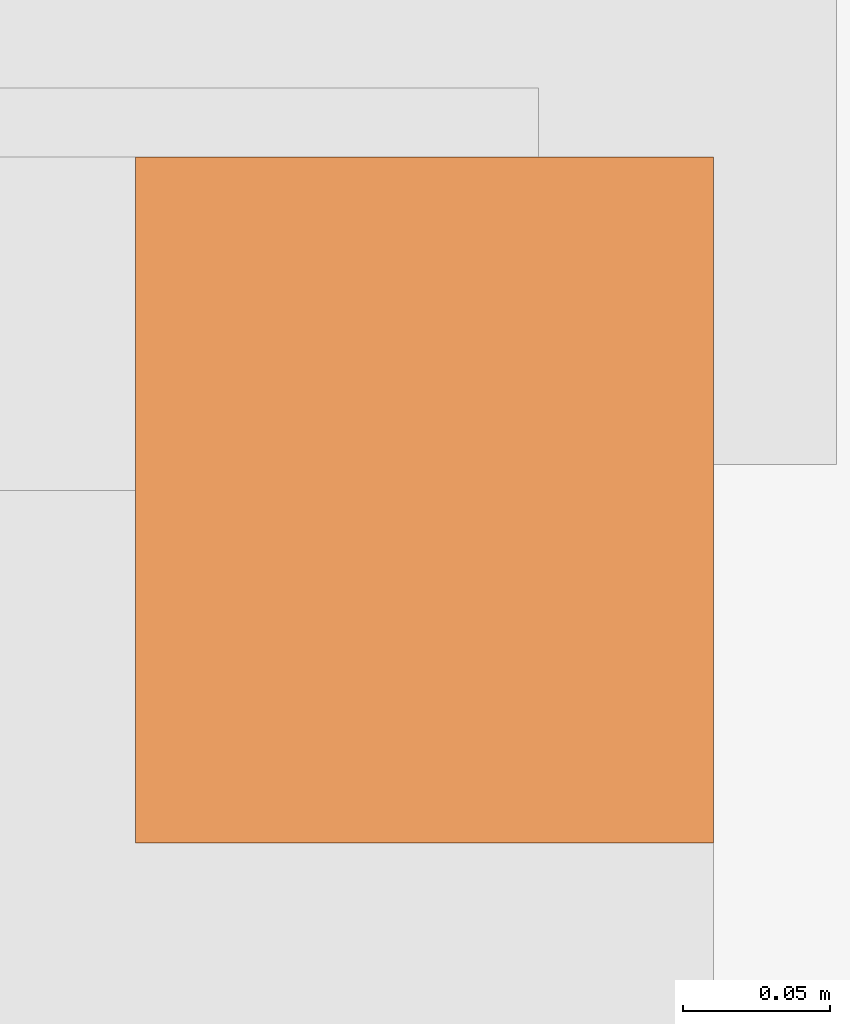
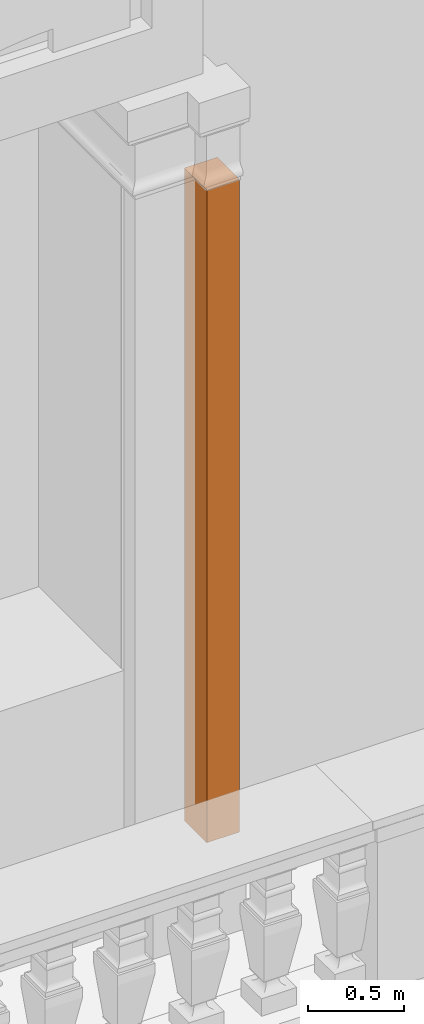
# One storey, part 6 of 14: 1 proxy.
"""IFC2X3 building model written with IfcOpenShell, lengths in metres."""

from ifc_helpers import new_model, entity, si_unit, converted_unit, derived_unit, direction, frame, frame_2d, origin, place, context, subcontext, project, spatial, rectangle, extrude, material, element, save


model = new_model("IFC2X3")

# Units and contexts
model_context = context("Model", 3, precision=1e-05, world=origin(), true_north=direction((6.12303176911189e-17, 1.0)))
body_context = subcontext(model_context, "Body", "Model", "MODEL_VIEW")
ifc_project = project(units=[si_unit("LENGTHUNIT", "METRE"), si_unit("AREAUNIT", "SQUARE_METRE"), si_unit("VOLUMEUNIT", "CUBIC_METRE"), converted_unit("PLANEANGLEUNIT", "DEGREE", entity("IfcRatioMeasure", 0.0174532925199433), si_unit("PLANEANGLEUNIT", "RADIAN"), dimensions=[0, 0, 0, 0, 0, 0, 0]), si_unit("MASSUNIT", "GRAM", prefix="KILO"), derived_unit("MASSDENSITYUNIT", [(si_unit("MASSUNIT", "GRAM", prefix="KILO"), 1), (si_unit("LENGTHUNIT", "METRE"), -3)]), si_unit("TIMEUNIT", "SECOND"), si_unit("FREQUENCYUNIT", "HERTZ"), si_unit("THERMODYNAMICTEMPERATUREUNIT", "DEGREE_CELSIUS"), derived_unit("THERMALTRANSMITTANCEUNIT", [(si_unit("MASSUNIT", "GRAM", prefix="KILO"), 1), (si_unit("THERMODYNAMICTEMPERATUREUNIT", "KELVIN"), -1), (si_unit("TIMEUNIT", "SECOND"), -3)]), derived_unit("VOLUMETRICFLOWRATEUNIT", [(si_unit("LENGTHUNIT", "METRE"), 3), (si_unit("TIMEUNIT", "SECOND"), -1)]), si_unit("ELECTRICCURRENTUNIT", "AMPERE"), si_unit("ELECTRICVOLTAGEUNIT", "VOLT"), si_unit("POWERUNIT", "WATT"), si_unit("FORCEUNIT", "NEWTON", prefix="KILO"), si_unit("ILLUMINANCEUNIT", "LUX"), si_unit("LUMINOUSFLUXUNIT", "LUMEN"), si_unit("LUMINOUSINTENSITYUNIT", "CANDELA"), derived_unit("USERDEFINED", [(si_unit("MASSUNIT", "GRAM", prefix="KILO"), -1), (si_unit("LENGTHUNIT", "METRE"), -2), (si_unit("TIMEUNIT", "SECOND"), 3), (si_unit("LUMINOUSFLUXUNIT", "LUMEN"), 1)]), derived_unit("LINEARVELOCITYUNIT", [(si_unit("LENGTHUNIT", "METRE"), 1), (si_unit("TIMEUNIT", "SECOND"), -1)]), si_unit("PRESSUREUNIT", "PASCAL"), derived_unit("USERDEFINED", [(si_unit("LENGTHUNIT", "METRE"), -2), (si_unit("MASSUNIT", "GRAM", prefix="KILO"), 1), (si_unit("TIMEUNIT", "SECOND"), -2)])], contexts=[model_context])

# Site, building, storey
site_placement = place(None, origin())
site = spatial("IfcSite", under=ifc_project, at=site_placement, Name="Default", CompositionType="ELEMENT")
building_placement = place(site_placement, origin())
building = spatial("IfcBuilding", under=site, at=building_placement, CompositionType="ELEMENT")
storey_placement = place(building_placement, frame((0.0, 0.0, 13.366833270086)))
storey = spatial("IfcBuildingStorey", under=building, at=storey_placement, Name="Livello 2", CompositionType="ELEMENT", Elevation=13.366833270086)

# Proxy
ifc_material = material(Name="Travertino")
proxy_placement = place(storey_placement, frame((-5.03335155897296, 0.792024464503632, 0.572700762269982)))
element("IfcBuildingElementProxy", 1, at=proxy_placement, inside=storey, material=ifc_material, Name="Stratigrafia", context=body_context, shape_type="SweptSolid", body=[
    extrude(rectangle(XDim=4.14295671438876, YDim=0.233508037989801, at=frame_2d((-6.93889390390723e-17, 1.11022302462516e-15), x_axis=(0.0, 1.0))), frame((0.0, 0.116754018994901, 2.07147835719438), z_axis=(1.0, 0.0, 0.0), x_axis=(0.0, 1.0, 0.0)), (0.0, 0.0, 1.0), 0.19686657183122),
])

save(model, "model.ifc")
